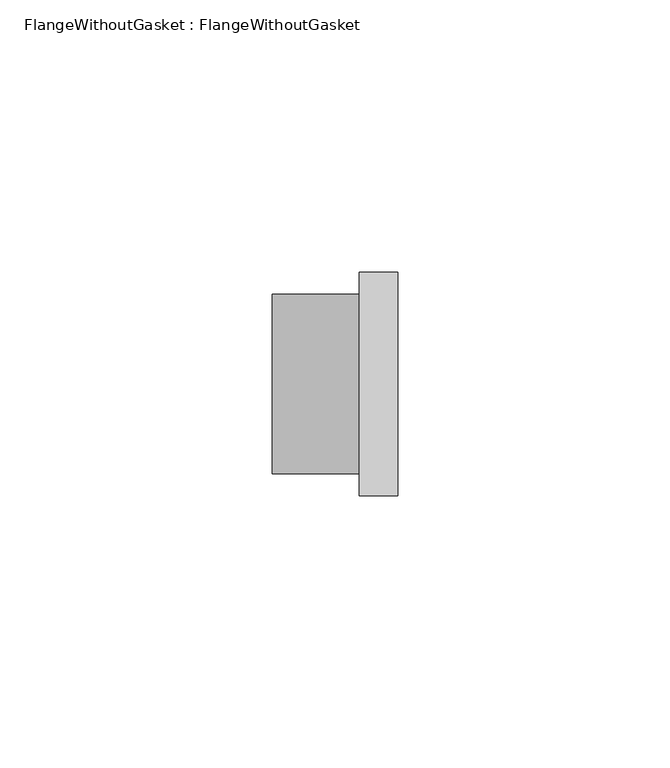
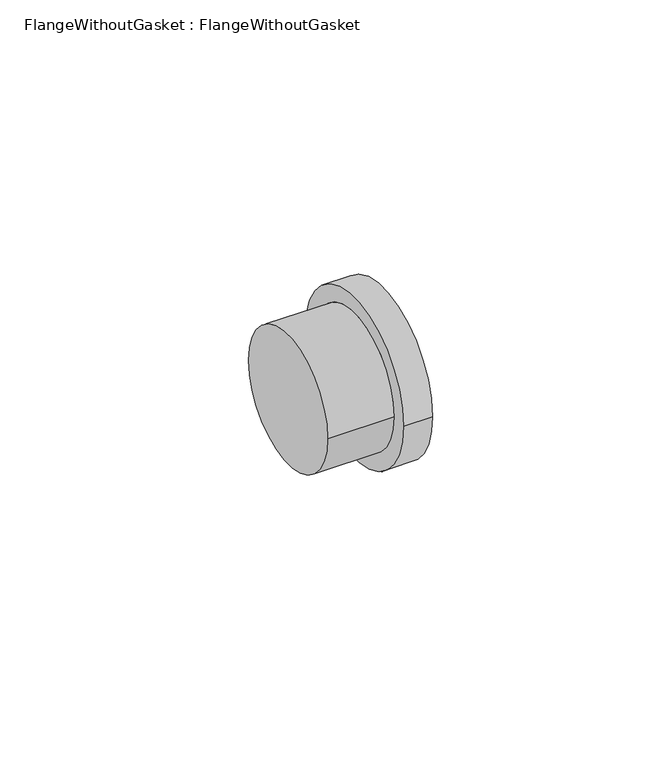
"""IFC4 building model written with IfcOpenShell, lengths in millimetres: pipe fitting geometry, FlangeWithoutGasket : FlangeWithoutGasket."""

import ifcopenshell
import ifcopenshell.guid

model = None  # the IFC model being written
_history = None  # IfcOwnerHistory: only IFC2X3 demands one
_inside = {}  # id of a spatial element -> (the spatial element, [elements in it])
_under = {}  # id of a project, library or spatial element -> (it, [spatial elements below it])
_declared = {}  # id of a project -> (the project, [libraries it declares])
_typed = {}  # id of a type object -> (the type object, [elements of that type])
_made_of = {}  # id of a material, layer set ... -> (it, [elements and type objects made of it])


def new_model(schema):
    """Start an empty IFC model of exactly this schema.

    Asked for "IFC4X3", IfcOpenShell would pick the latest addendum, in which some entities
    have other attributes; the version numbers below select the first issue.
    IFC2X3 requires an IfcOwnerHistory on every rooted entity: one is made here for all.
    """
    global model, _history
    if schema == "IFC4X3":
        model = ifcopenshell.file(schema_version=(4, 3, 0, 0))
    else:
        model = ifcopenshell.file(schema=schema)
    _inside.clear()
    _under.clear()
    _declared.clear()
    _typed.clear()
    _made_of.clear()
    _history = None
    if model.schema == "IFC2X3":
        org = make("IfcOrganization", Name="unknown")
        user = make(
            "IfcPersonAndOrganization",
            ThePerson=make("IfcPerson", FamilyName="unknown"),
            TheOrganization=org,
        )
        app = make(
            "IfcApplication",
            ApplicationDeveloper=org,
            Version="unknown",
            ApplicationFullName="unknown",
            ApplicationIdentifier="unknown",
        )
        _history = make(
            "IfcOwnerHistory",
            OwningUser=user,
            OwningApplication=app,
            ChangeAction="ADDED",
            CreationDate=0,
        )
    return model


def make(cls, **values):
    """One entity of the class cls with the attributes given. An attribute that is None is left unset."""
    return model.create_entity(
        cls, **{name: value for name, value in values.items() if value is not None}
    )


def rooted(cls, **values):
    """An entity with a GlobalId (a new one), such as an element, a storey or a relation."""
    return make(cls, GlobalId=ifcopenshell.guid.new(), OwnerHistory=_history, **values)


def si_unit(unit_type, name, prefix=None):
    """IfcSIUnit, for example si_unit("LENGTHUNIT", "METRE", prefix="MILLI")."""
    return make("IfcSIUnit", UnitType=unit_type, Prefix=prefix, Name=name)


def assignment(units):
    """IfcUnitAssignment: the units of a project."""
    return None if units is None else make("IfcUnitAssignment", Units=units)


def point(xyz):
    """IfcCartesianPoint."""
    return None if xyz is None else make("IfcCartesianPoint", Coordinates=xyz)


def direction(xyz):
    """IfcDirection."""
    return None if xyz is None else make("IfcDirection", DirectionRatios=xyz)


def frame(location, z_axis=None, x_axis=None):
    """IfcAxis2Placement3D, a coordinate frame: its origin and axes. An axis left out is left unset."""
    return make(
        "IfcAxis2Placement3D",
        Location=point(location),
        Axis=direction(z_axis),
        RefDirection=direction(x_axis),
    )


def origin():
    """The frame at (0, 0, 0) with its axes left unset."""
    return frame((0.0, 0.0, 0.0))


def place(relative_to, where):
    """IfcLocalPlacement: puts the frame where relative to a parent placement (None: the world)."""
    return make(
        "IfcLocalPlacement", PlacementRelTo=relative_to, RelativePlacement=where
    )


def context(
    kind, dimensions, precision=None, world=None, true_north=None, identifier=None
):
    """IfcGeometricRepresentationContext, for example the 3D "Model" context."""
    return make(
        "IfcGeometricRepresentationContext",
        ContextIdentifier=identifier,
        ContextType=kind,
        CoordinateSpaceDimension=dimensions,
        Precision=precision,
        WorldCoordinateSystem=world,
        TrueNorth=true_north,
    )


def project(units=None, contexts=None):
    """IfcProject with its units and contexts."""
    return rooted(
        "IfcProject",
        Name="project",
        RepresentationContexts=contexts,
        UnitsInContext=assignment(units),
    )


def spatial(cls, under=None, at=None, **own):
    """A site, building, storey or space (cls), placed at a placement, below another one or the project."""
    s = rooted(cls, ObjectPlacement=at, **own)
    if under is not None:
        _under.setdefault(under.id(), (under, []))[1].append(s)
    return s


def circle_curve(where, radius):
    """IfcCircle in the frame where."""
    return make("IfcCircle", Position=where, Radius=radius)


def shape(context_of_items, identifier, shape_type, items):
    """IfcShapeRepresentation: the items that make up one representation, for example the "Body"."""
    return make(
        "IfcShapeRepresentation",
        ContextOfItems=context_of_items,
        RepresentationIdentifier=identifier,
        RepresentationType=shape_type,
        Items=items,
    )


def source(mapping_origin, context_of_items, identifier, shape_type, items):
    """IfcRepresentationMap: a shape defined once, which mapped items show again and again."""
    return make(
        "IfcRepresentationMap",
        MappingOrigin=mapping_origin,
        MappedRepresentation=shape(context_of_items, identifier, shape_type, items),
    )


def transform(
    local_origin,
    x_axis=None,
    y_axis=None,
    z_axis=None,
    scale=None,
    scale2=None,
    scale3=None,
    uniform=True,
):
    """IfcCartesianTransformationOperator3D, or its non-uniform kind. x_axis, y_axis, z_axis: its Axis1, 2, 3."""
    if uniform:
        return make(
            "IfcCartesianTransformationOperator3D",
            Axis1=direction(x_axis),
            Axis2=direction(y_axis),
            LocalOrigin=point(local_origin),
            Scale=scale,
            Axis3=direction(z_axis),
        )
    return make(
        "IfcCartesianTransformationOperator3DnonUniform",
        Axis1=direction(x_axis),
        Axis2=direction(y_axis),
        LocalOrigin=point(local_origin),
        Scale=scale,
        Axis3=direction(z_axis),
        Scale2=scale2,
        Scale3=scale3,
    )


def mapped(mapping_source, mapping_target):
    """IfcMappedItem: shows the shape of a source again, moved by a transform."""
    return make(
        "IfcMappedItem", MappingSource=mapping_source, MappingTarget=mapping_target
    )


def made_of(thing, what):
    """Note that an element or type object is made of a material, layer set ...; save() writes the relation."""
    if what is not None:
        _made_of.setdefault(what.id(), (what, []))[1].append(thing)
    return thing


def element(
    cls,
    number,
    at=None,
    inside=None,
    cuts=None,
    type_object=None,
    material=None,
    context=None,
    identifier="Body",
    shape_type=None,
    held_by="IfcProductDefinitionShape",
    body=None,
    shapes=None,
    **own,
):
    """One element of the class cls, such as IfcWall. Its Tag is "e" and its number.

    at: its placement. inside: the storey or other place that contains it. cuts: it is an
    opening in that element (IfcRelVoidsElement). A single representation is given by context,
    identifier, shape_type and body (its items); several are given by shapes. held_by: the class
    of the entity that holds the representations. save() writes the other relations.
    """
    e = rooted(cls, Tag="e%d" % number, ObjectPlacement=at, **own)
    if body is not None:
        shapes = [shape(context, identifier, shape_type, body)]
    if shapes is not None:
        e.Representation = make(held_by, Representations=shapes)
    if inside is not None:
        _inside.setdefault(inside.id(), (inside, []))[1].append(e)
    if cuts is not None:
        rooted(
            "IfcRelVoidsElement", RelatingBuildingElement=cuts, RelatedOpeningElement=e
        )
    if type_object is not None:
        _typed.setdefault(type_object.id(), (type_object, []))[1].append(e)
    return made_of(e, material)


def aggregate(whole, parts):
    """IfcRelAggregates: a whole, such as a stair, and the parts it consists of."""
    return rooted("IfcRelAggregates", RelatingObject=whole, RelatedObjects=parts)


def save(model, path):
    """Write the relations noted so far, then the file.

    IfcRelAggregates (storeys below a building ...), IfcRelContainedInSpatialStructure (elements
    in a storey), IfcRelDefinesByType, IfcRelAssociatesMaterial and IfcRelDeclares: one each for
    every whole, place, type object, material and project.
    """
    for whole, parts in _under.values():
        aggregate(whole, parts)
    for where, things in _inside.values():
        rooted(
            "IfcRelContainedInSpatialStructure",
            RelatedElements=things,
            RelatingStructure=where,
        )
    for kind, things in _typed.values():
        rooted("IfcRelDefinesByType", RelatedObjects=things, RelatingType=kind)
    for what, things in _made_of.values():
        rooted("IfcRelAssociatesMaterial", RelatedObjects=things, RelatingMaterial=what)
    for by, libraries in _declared.values():
        rooted("IfcRelDeclares", RelatingContext=by, RelatedDefinitions=libraries)
    model.write(path)


def plane_surface(at):
    """IfcPlane: the flat surface through the origin of the frame at, square to its z axis."""
    return make("IfcPlane", Position=at)


def cylinder_surface(at, radius):
    """IfcCylindricalSurface: all points at the distance radius from the z axis of the frame at."""
    return make("IfcCylindricalSurface", Position=at, Radius=radius)


def advanced_brep(points, edges, surfaces, faces):
    """IfcAdvancedBrep: a solid bounded by faces that lie on surfaces and meet in shared edges.

    An edge is (start, end): straight between two places in points (the first is 0);
    or (start, end, curve); or (start, end, curve, False) where it runs against its curve.
    A face is (place in surfaces, loops), or (place, loops, False) where it looks against
    its surface's normal. A loop lists edges by number (the first is 1), with a minus sign
    where the edge is run from its end to its start. The first loop is the outer one.
    """
    corners = [point(p) for p in points]
    vertices = [make("IfcVertexPoint", VertexGeometry=c) for c in corners]
    made = []
    for start, end, *more in edges:
        made.append(
            make(
                "IfcEdgeCurve",
                EdgeStart=vertices[start],
                EdgeEnd=vertices[end],
                EdgeGeometry=more[0] if more else make("IfcPolyline", Points=[corners[start], corners[end]]),
                SameSense=more[1] if len(more) > 1 else True,
            )
        )
    hull = []
    for where, loops, *sense in faces:
        bounds = []
        for j, loop in enumerate(loops):
            ring = [make("IfcOrientedEdge", EdgeElement=made[abs(k) - 1], Orientation=k > 0) for k in loop]
            bounds.append(
                make(
                    "IfcFaceOuterBound" if j == 0 else "IfcFaceBound",
                    Bound=make("IfcEdgeLoop", EdgeList=ring),
                    Orientation=True,
                )
            )
        hull.append(make("IfcAdvancedFace", Bounds=bounds, FaceSurface=surfaces[where], SameSense=sense[0] if sense else True))
    return make("IfcAdvancedBrep", Outer=make("IfcClosedShell", CfsFaces=hull))


def flangewithoutgasket_flangewithoutgasket_53bb87d2(model_context):
    return source(origin(), model_context, "Body", "AdvancedBrep", [
        advanced_brep(
        [(11.5, 20.5, 0.0), (11.5, -20.5, 0.0), (4.5, 20.5, 0.0), (4.5, -20.5, 0.0), (4.5, 16.5, 0.0), (4.5, -16.5, 0.0), (-11.5, -16.5, 0.0), (-11.5, 16.5, 0.0)],
        [
            (0, 1, circle_curve(frame((11.5, 0.0, 0.0), z_axis=(1.0, 0.0, 0.0), x_axis=(0.0, -1.0, 0.0)), 20.5)),
            (1, 0, circle_curve(frame((11.5, 0.0, 0.0), z_axis=(1.0, 0.0, 0.0), x_axis=(0.0, -1.0, 0.0)), 20.5)),
            (2, 3, circle_curve(frame((4.5, 0.0, 0.0), z_axis=(-1.0, 0.0, 0.0), x_axis=(0.0, -1.0, 0.0)), 20.5)),
            (3, 2, circle_curve(frame((4.5, 0.0, 0.0), z_axis=(-1.0, 0.0, 0.0), x_axis=(0.0, -1.0, 0.0)), 20.5)),
            (4, 5, circle_curve(frame((4.5, 0.0, 0.0), z_axis=(1.0, 0.0, 0.0), x_axis=(0.0, 1.0, 0.0)), 16.5)),
            (5, 4, circle_curve(frame((4.5, 0.0, 0.0), z_axis=(1.0, 0.0, 0.0), x_axis=(0.0, 1.0, 0.0)), 16.5)),
            (0, 2),
            (3, 1),
            (6, 7, circle_curve(frame((-11.5, 0.0, 0.0), z_axis=(-1.0, 0.0, 0.0), x_axis=(0.0, 1.0, 0.0)), 16.5)),
            (7, 6, circle_curve(frame((-11.5, 0.0, 0.0), z_axis=(-1.0, 0.0, 0.0), x_axis=(0.0, 1.0, 0.0)), 16.5)),
            (6, 5),
            (4, 7),
        ],
        [
            plane_surface(frame((11.5, 0.0, 0.0), z_axis=(1.0, 0.0, 0.0), x_axis=(0.0, 0.0, 1.0))),
            plane_surface(frame((4.5, 0.0, 0.0), z_axis=(-1.0, 0.0, 0.0), x_axis=(0.0, 0.0, 1.0))),
            cylinder_surface(frame((11.5, 0.0, 0.0), z_axis=(1.0, 0.0, 0.0), x_axis=(0.0, -1.0, 0.0)), 20.5),
            plane_surface(frame((-11.5, 0.0, 0.0), z_axis=(-1.0, 0.0, 0.0), x_axis=(0.0, 0.0, 1.0))),
            cylinder_surface(frame((-11.5, 0.0, 0.0), z_axis=(-1.0, 0.0, 0.0), x_axis=(0.0, 1.0, 0.0)), 16.5),
        ],
        [
            (0, [[1, 2]]),
            (1, [[3, 4], [5, 6]]),
            (2, [[-1, 7, -4, 8]]),
            (2, [[-2, -8, -3, -7]]),
            (3, [[9, 10]]),
            (4, [[-9, 11, -5, 12]]),
            (4, [[-10, -12, -6, -11]]),
        ],
    ),
    ])


if __name__ == "__main__":
    model = new_model("IFC4")
    model_context = context("Model", 3, world=origin())
    ifc_project = project(units=[si_unit("LENGTHUNIT", "METRE", prefix="MILLI")], contexts=[model_context])
    site = spatial("IfcSite", under=ifc_project)
    building = spatial("IfcBuilding", under=site)
    placement = place(None, origin())
    flangewithoutgasket_flangewithoutgasket_shape = flangewithoutgasket_flangewithoutgasket_53bb87d2(model_context)
    element("IfcPipeFitting", 1, ObjectType="FlangeWithoutGasket : FlangeWithoutGasket", at=placement, inside=building, context=model_context, shape_type="MappedRepresentation", body=[
        mapped(flangewithoutgasket_flangewithoutgasket_shape, transform((0.0, 0.0, 0.0), x_axis=(1.0, 0.0, 0.0), y_axis=(0.0, 1.0, 0.0), z_axis=(0.0, 0.0, 1.0))),
    ])
    save(model, "model.ifc")
